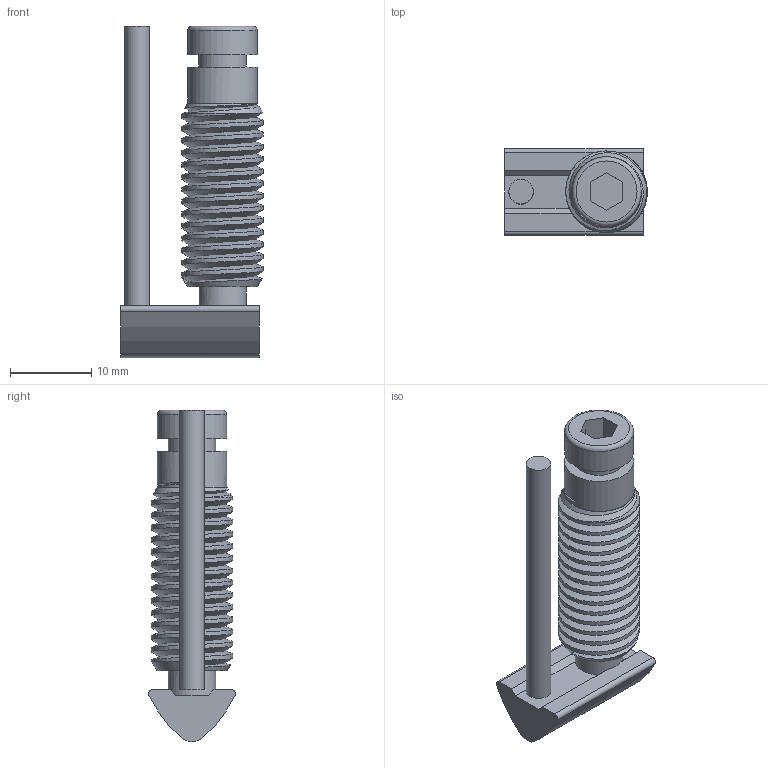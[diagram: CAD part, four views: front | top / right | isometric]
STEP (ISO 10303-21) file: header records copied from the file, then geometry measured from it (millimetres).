
FILE_DESCRIPTION( ( 'Unknown' ), '1' );
FILE_NAME( '//192.168.0.10/cad_daten/S206GFVS.stp', 'Unknown', ( 'A.Faul' ), ( 'Unknown' ), 'PSStep 10.0', 'Unknown', ' ' );
FILE_SCHEMA( ( 'AUTOMOTIVE_DESIGN { 1 0 10303 214 1 1 1 1 }' ) );
Length unit declared in the file: millimetre
Products named in the file (2): 1; 2
Bounding box: 17.5 x 10.66 x 40.69 mm (x, y, z)
Volume: 3012.6 mm3; surface area: 2495 mm2
Topology: 2 solids, 2 shells, 42 faces, 102 edges, 68 vertices
Faces by surface type: plane 26, cylinder 11, bspline 2, cone 2, torus 1
Full cylindrical faces by diameter (mm): 3 x1, 5.848 x2, 8.5 x2
Entity records: 2920 total; most frequent: CARTESIAN_POINT 1618, DIRECTION 197, ORIENTED_EDGE 182, EDGE_CURVE 91, AXIS2_PLACEMENT_3D 74, VERTEX_POINT 64, EDGE_LOOP 53, LINE 49
